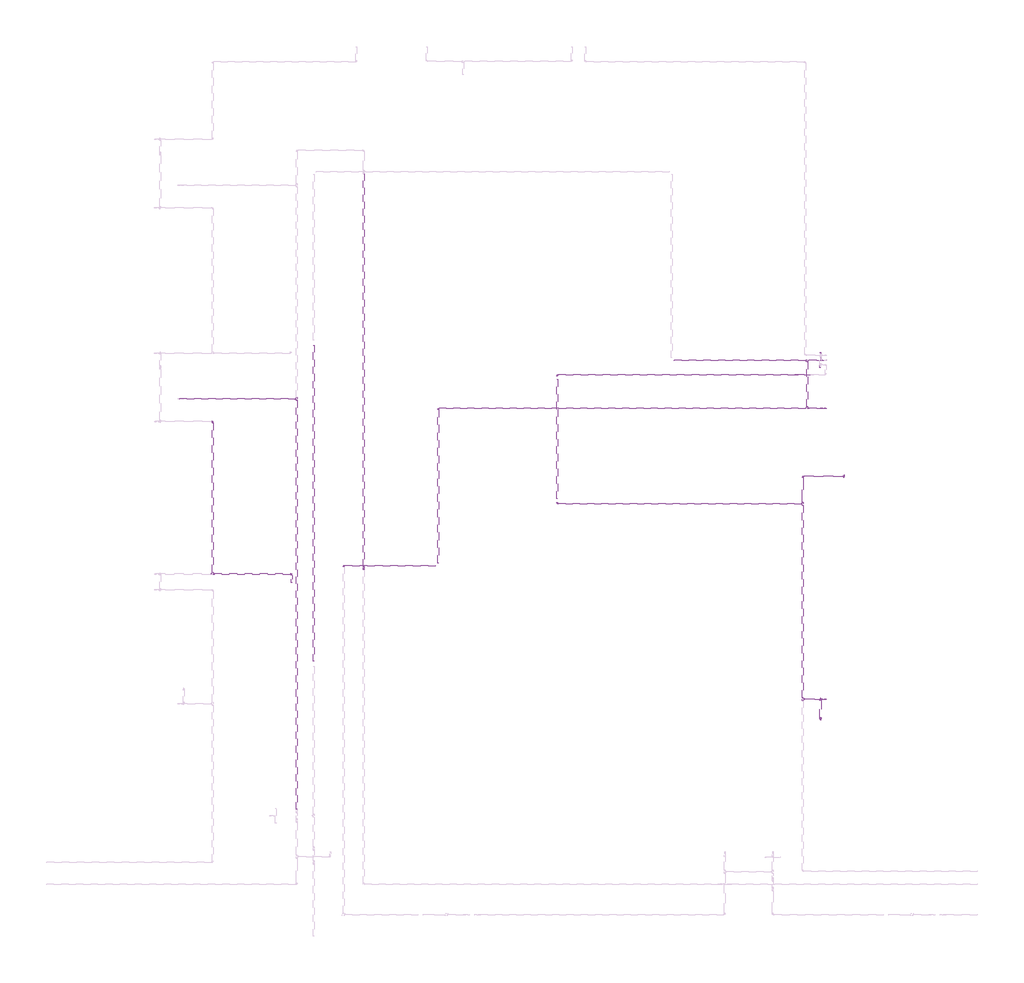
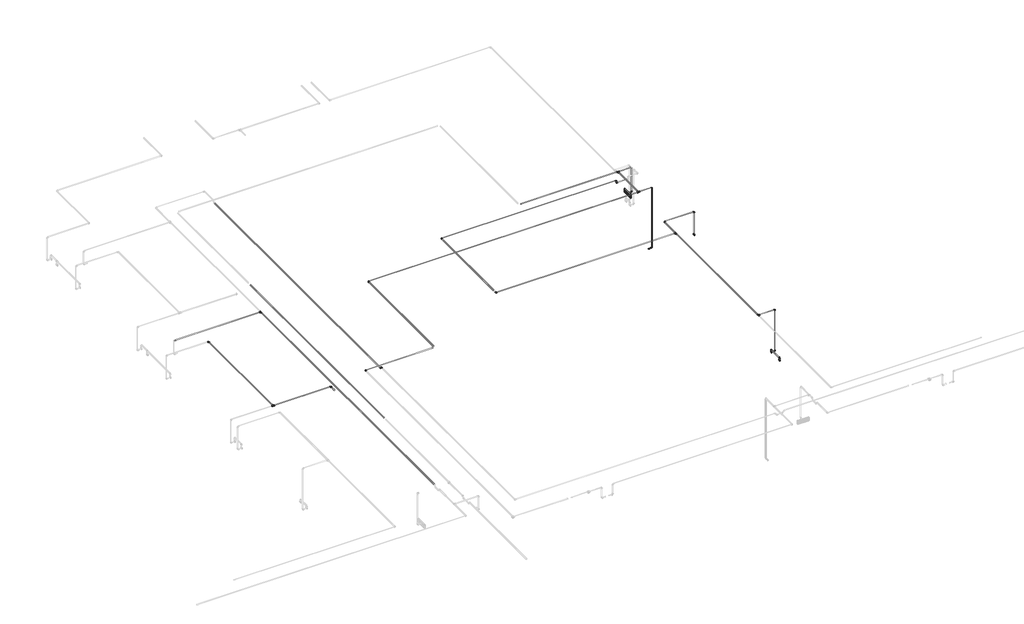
# One storey, part 27 of 40: 36 cable carrier segments, 25 cable carrier fittings, 3 electric appliances, 1 alarm.
"""IFC4 building model written with IfcOpenShell, lengths in millimetres."""

from ifc_helpers import new_model, si_unit, point, frame, frame_2d, origin, place, context, project, spatial, circle_curve, trimmed, segment, composite_curve, outline, extrude, transform, mapped, element, save
from components import alarm_4b7e8fd8, cable_carrier_fitting_69f1a801, cable_carrier_fitting_8122f9af, cable_carrier_fitting_8e51bf8c, cable_carrier_fitting_8fd13dfc, electric_appliance_5961a143

model = new_model("IFC4")

# Units and contexts
model_context = context("Model", 3, world=origin())
ifc_project = project(units=[si_unit("LENGTHUNIT", "METRE", prefix="MILLI")], contexts=[model_context])

# Site, building, storey
site = spatial("IfcSite", under=ifc_project)
building = spatial("IfcBuilding", under=site)
storey = spatial("IfcBuildingStorey", under=building, Name="1 этаж", Elevation=0.0)

# Alarm
placement = place(None, origin())
alarm_shape = alarm_4b7e8fd8(model_context)
element("IfcAlarm", 1, ObjectType="RBZ_Оповещатель_Световой_Рубеж_ОПОП1-R3(грань) : ОПОП 1-R3 \"Выход\"", at=placement, inside=storey, context=model_context, shape_type="MappedRepresentation", body=[
    mapped(alarm_shape, transform((-3772.3240021, 15927.1370105, 2500.0), x_axis=(0.0, -1.0, 0.0), y_axis=(0.0, 0.0, 1.0), z_axis=(-1.0, 0.0, 0.0))),
])

# Cable carrier fittings
cable_carrier_fitting_shape = cable_carrier_fitting_69f1a801(model_context)
element("IfcCableCarrierFitting", 2, ObjectType="ADSK_Поворот_Минимальный размер : Неспецифицируемый", at=placement, inside=storey, context=model_context, shape_type="MappedRepresentation", body=[
    mapped(cable_carrier_fitting_shape, transform((-13072.3240021, 11924.6370105, 3189.25), x_axis=(-0.9999999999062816, 0.0, 1.3690754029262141e-05), y_axis=(0.0, -1.0, 0.0), z_axis=(1.3690754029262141e-05, 0.0, 0.9999999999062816))),
])
element("IfcCableCarrierFitting", 3, ObjectType="ADSK_Поворот_Минимальный размер : Неспецифицируемый", at=placement, inside=storey, context=model_context, shape_type="MappedRepresentation", body=[
    mapped(cable_carrier_fitting_shape, transform((-11227.323998, 14987.1370019, 3189.2386056), x_axis=(-0.9999999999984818, 0.0, -1.7425329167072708e-06), y_axis=(6.374701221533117e-12, -0.9999999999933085, -3.658296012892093e-06), z_axis=(-1.7425329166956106e-06, -3.658296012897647e-06, 0.9999999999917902))),
])
element("IfcCableCarrierFitting", 4, ObjectType="ADSK_Поворот_Минимальный размер : Неспецифицируемый", at=placement, inside=storey, context=model_context, shape_type="MappedRepresentation", body=[
    mapped(cable_carrier_fitting_shape, transform((-3675.1241965, 14987.1370105, 1500.0), x_axis=(1.0, 0.0, 0.0), y_axis=(0.0, 0.0, 1.0), z_axis=(0.0, -1.0, 0.0))),
])
element("IfcCableCarrierFitting", 5, ObjectType="ADSK_Поворот_Минимальный размер : Неспецифицируемый", at=placement, inside=storey, context=model_context, shape_type="MappedRepresentation", body=[
    mapped(cable_carrier_fitting_shape, transform((-3675.1241965, 15927.1370105, 2500.0), x_axis=(1.0, 0.0, 0.0), y_axis=(0.0, 0.0, 1.0), z_axis=(0.0, -1.0, 0.0))),
])
element("IfcCableCarrierFitting", 6, ObjectType="ADSK_Поворот_Минимальный размер : Неспецифицируемый", at=placement, inside=storey, context=model_context, shape_type="MappedRepresentation", body=[
    mapped(cable_carrier_fitting_shape, transform((-14084.8240021, 11759.6370105, 3187.0), x_axis=(0.0, 1.0, 0.0), y_axis=(-1.0, 0.0, 0.0), z_axis=(0.0, 0.0, 1.0))),
])
element("IfcCableCarrierFitting", 7, ObjectType="ADSK_Поворот_Минимальный размер : Неспецифицируемый", at=placement, inside=storey, context=model_context, shape_type="MappedRepresentation", body=[
    mapped(cable_carrier_fitting_shape, transform((-8903.8142374, 15646.0044154, 3187.0), x_axis=(-1.0, 0.0, 0.0), y_axis=(0.0, -1.0, 0.0), z_axis=(0.0, 0.0, 1.0))),
])
element("IfcCableCarrierFitting", 8, ObjectType="ADSK_Поворот_Минимальный размер : Неспецифицируемый", at=placement, inside=storey, context=model_context, shape_type="MappedRepresentation", body=[
    mapped(cable_carrier_fitting_shape, transform((-3318.3240021, 13664.6370105, 3187.0), x_axis=(0.0, 0.0, 1.0), y_axis=(-1.0, 0.0, 0.0), z_axis=(0.0, -1.0, 0.0))),
])
element("IfcCableCarrierFitting", 9, ObjectType="ADSK_Поворот_Минимальный размер : Неспецифицируемый", at=placement, inside=storey, context=model_context, shape_type="MappedRepresentation", body=[
    mapped(cable_carrier_fitting_shape, transform((-4118.3240021, 13664.6370105, 3187.0), x_axis=(-1.0, 0.0, 0.0), y_axis=(0.0, -1.0, 0.0), z_axis=(0.0, 0.0, 1.0))),
])
element("IfcCableCarrierFitting", 10, ObjectType="ADSK_Поворот_Минимальный размер : Неспецифицируемый", at=placement, inside=storey, context=model_context, shape_type="MappedRepresentation", body=[
    mapped(cable_carrier_fitting_shape, transform((-4243.8142374, 15646.0044154, 3187.0), x_axis=(1.0, 0.0, 0.0), y_axis=(0.0, 0.0, -1.0), z_axis=(0.0, 1.0, 0.0))),
])
element("IfcCableCarrierFitting", 11, ObjectType="ADSK_Поворот_Минимальный размер : Неспецифицируемый", at=placement, inside=storey, context=model_context, shape_type="MappedRepresentation", body=[
    mapped(cable_carrier_fitting_shape, transform((-4243.8142374, 15646.0044154, 3120.0), x_axis=(0.0, 0.0, -1.0), y_axis=(1.0, 0.0, 0.0), z_axis=(0.0, -1.0, 0.0))),
])
element("IfcCableCarrierFitting", 12, ObjectType="ADSK_Поворот_Минимальный размер : Неспецифицируемый", at=placement, inside=storey, context=model_context, shape_type="MappedRepresentation", body=[
    mapped(cable_carrier_fitting_shape, transform((-15622.3240021, 14732.1370105, 3187.0), x_axis=(0.0, 1.0, 0.0), y_axis=(-1.0, 0.0, 0.0), z_axis=(0.0, 0.0, 1.0))),
])
element("IfcCableCarrierFitting", 13, ObjectType="ADSK_Поворот_Минимальный размер : Неспецифицируемый", at=placement, inside=storey, context=model_context, shape_type="MappedRepresentation", body=[
    mapped(cable_carrier_fitting_shape, transform((-8903.8142374, 13125.6490165, 3187.0), x_axis=(0.0, -1.0, 0.0), y_axis=(1.0, 0.0, 0.0), z_axis=(0.0, 0.0, 1.0))),
])
element("IfcCableCarrierFitting", 14, ObjectType="ADSK_Поворот_Минимальный размер : Неспецифицируемый", at=placement, inside=storey, context=model_context, shape_type="MappedRepresentation", body=[
    mapped(cable_carrier_fitting_shape, transform((-3775.3240021, 8933.8719238, 2100.0), x_axis=(0.0, 0.0, 1.0), y_axis=(0.0, 1.0, 0.0), z_axis=(-1.0, 0.0, 0.0))),
])
element("IfcCableCarrierFitting", 15, ObjectType="ADSK_Поворот_Минимальный размер : Неспецифицируемый", at=placement, inside=storey, context=model_context, shape_type="MappedRepresentation", body=[
    mapped(cable_carrier_fitting_shape, transform((-3775.3240021, 9321.9874432, 2100.0), x_axis=(0.0, 0.0, 1.0), y_axis=(0.0, -1.0, 0.0), z_axis=(1.0, 0.0, 0.0))),
])
element("IfcCableCarrierFitting", 16, ObjectType="ADSK_Поворот_Минимальный размер : Неспецифицируемый", at=placement, inside=storey, context=model_context, shape_type="MappedRepresentation", body=[
    mapped(cable_carrier_fitting_shape, transform((-3675.1241965, 9321.9874432, 2028.0911237), x_axis=(1.0, 0.0, 0.0), y_axis=(0.0, 0.0, 1.0), z_axis=(0.0, -1.0, 0.0))),
])
element("IfcCableCarrierFitting", 17, ObjectType="ADSK_Поворот_Минимальный размер : Неспецифицируемый", at=placement, inside=storey, context=model_context, shape_type="MappedRepresentation", body=[
    mapped(cable_carrier_fitting_shape, transform((-3675.1241965, 9321.9874432, 3187.0), x_axis=(0.0, 0.0, 1.0), y_axis=(-1.0, 0.0, 0.0), z_axis=(0.0, -1.0, 0.0))),
])
cable_carrier_fitting_2_shape = cable_carrier_fitting_8122f9af(model_context)
element("IfcCableCarrierFitting", 18, ObjectType="ADSK_Поворот_Минимальный размер : Неспецифицируемый", at=placement, inside=storey, context=model_context, shape_type="MappedRepresentation", body=[
    mapped(cable_carrier_fitting_2_shape, transform((-12682.3240021, 11904.6370105, 3130.0), x_axis=(0.0, -1.0, 0.0), y_axis=(0.0, 0.0, 1.0), z_axis=(-1.0, 0.0, 0.0))),
])
element("IfcCableCarrierFitting", 19, ObjectType="ADSK_Поворот_Минимальный размер : Неспецифицируемый", at=placement, inside=storey, context=model_context, shape_type="MappedRepresentation", body=[
    mapped(cable_carrier_fitting_2_shape, transform((-12682.3240021, 11854.6370105, 3180.0), x_axis=(0.0, -0.7071067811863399, 0.7071067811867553), y_axis=(0.0, -0.7071067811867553, -0.7071067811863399), z_axis=(1.0, 0.0, 0.0))),
])
cable_carrier_fitting_3_shape = cable_carrier_fitting_8e51bf8c(model_context)
element("IfcCableCarrierFitting", 20, ObjectType="ADSK_Поворот_Минимальный размер : Неспецифицируемый", at=placement, inside=storey, context=model_context, shape_type="MappedRepresentation", body=[
    mapped(cable_carrier_fitting_3_shape, transform((-3675.1241965, 14987.1370105, 3189.3066771), x_axis=(0.0, 0.0, 1.0), y_axis=(-0.9999999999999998, -2.757882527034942e-08, 0.0), z_axis=(2.757882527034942e-08, -0.9999999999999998, 0.0))),
])
cable_carrier_fitting_4_shape = cable_carrier_fitting_8fd13dfc(model_context)
element("IfcCableCarrierFitting", 21, ObjectType="ADSK_Тройник : ПВХ", at=placement, inside=storey, context=model_context, shape_type="MappedRepresentation", body=[
    mapped(cable_carrier_fitting_4_shape, transform((-4037.5567771, 14987.1370019, 3189.2011341), x_axis=(-0.9999999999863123, 0.0, 5.2321556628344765e-06), y_axis=(0.0, -1.0, 0.0), z_axis=(5.2321556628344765e-06, 0.0, 0.9999999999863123))),
])
element("IfcCableCarrierFitting", 22, ObjectType="ADSK_Тройник : ПВХ", at=placement, inside=storey, context=model_context, shape_type="MappedRepresentation", body=[
    mapped(cable_carrier_fitting_4_shape, transform((-4037.5567771, 15927.1370105, 3189.2125212), x_axis=(1.0, 0.0, 0.0), y_axis=(0.0, 0.9999999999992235, -1.2462246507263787e-06), z_axis=(0.0, 1.2462246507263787e-06, 0.9999999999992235))),
])
element("IfcCableCarrierFitting", 23, ObjectType="ADSK_Тройник : ПВХ", at=placement, inside=storey, context=model_context, shape_type="MappedRepresentation", body=[
    mapped(cable_carrier_fitting_4_shape, transform((-4118.3240021, 13125.6490165, 3187.0), x_axis=(0.0, -1.0, 0.0), y_axis=(1.0, 0.0, 0.0), z_axis=(0.0, 0.0, 1.0))),
])
element("IfcCableCarrierFitting", 24, ObjectType="ADSK_Тройник : ПВХ", at=placement, inside=storey, context=model_context, shape_type="MappedRepresentation", body=[
    mapped(cable_carrier_fitting_4_shape, transform((-15622.3240021, 11759.6370105, 3187.0), x_axis=(-1.0, 0.0, 0.0), y_axis=(0.0, -1.0, 0.0), z_axis=(0.0, 0.0, 1.0))),
])
element("IfcCableCarrierFitting", 25, ObjectType="ADSK_Тройник : ПВХ", at=placement, inside=storey, context=model_context, shape_type="MappedRepresentation", body=[
    mapped(cable_carrier_fitting_4_shape, transform((-13982.3240021, 15172.1370105, 3180.0), x_axis=(0.0, -1.0, 0.0), y_axis=(1.0, 0.0, 0.0), z_axis=(0.0, 0.0, 1.0))),
])
element("IfcCableCarrierFitting", 26, ObjectType="ADSK_Тройник : ПВХ", at=placement, inside=storey, context=model_context, shape_type="MappedRepresentation", body=[
    mapped(cable_carrier_fitting_4_shape, transform((-4118.3240021, 9321.9874432, 3187.0), x_axis=(0.0, 1.0, 0.0), y_axis=(-1.0, 0.0, 0.0), z_axis=(0.0, 0.0, 1.0))),
])

# Cable carrier segments
element("IfcCableCarrierSegment", 27, ObjectType="Гофрированная труба", at=placement, inside=storey, context=model_context, shape_type="SweptSolid", body=[
    extrude(outline(composite_curve([segment(trimmed(circle_curve(frame_2d((11924.6370105, 3189.2497125)), 10.0), [point((11914.6370105, 3189.2497125))], [point((11924.6370105, 3199.2497125))], False, "CARTESIAN"), True, "CONTINUOUS"), segment(trimmed(circle_curve(frame_2d((11924.6370105, 3189.2497125)), 10.0), [point((11924.6370105, 3199.2497125))], [point((11934.6370105, 3189.2497125))], False, "CARTESIAN"), True, "CONTINUOUS"), segment(trimmed(circle_curve(frame_2d((11924.6370105, 3189.2497125)), 10.0), [point((11934.6370105, 3189.2497125))], [point((11924.6370105, 3179.2497125))], False, "CARTESIAN"), True, "CONTINUOUS"), segment(trimmed(circle_curve(frame_2d((11924.6370105, 3189.2497125)), 10.0), [point((11924.6370105, 3179.2497125))], [point((11914.6370105, 3189.2497125))], False, "CARTESIAN"), True, "CONTINUOUS")], self_intersect=False)), frame((-13051.3240021, 0.0, 0.0), z_axis=(1.0, 0.0, 0.0), x_axis=(0.0, 1.0, 0.0)), (0.0, 0.0, 1.0), 1777.5),
])
element("IfcCableCarrierSegment", 28, ObjectType="Гофрированная труба", at=placement, inside=storey, context=model_context, shape_type="SweptSolid", body=[
    extrude(outline(composite_curve([segment(trimmed(circle_curve(frame_2d((3189.2385288, -11227.323998)), 10.0), [point((3189.2385113, -11237.323998))], [point((3179.2385288, -11227.3239806))], False, "CARTESIAN"), True, "CONTINUOUS"), segment(trimmed(circle_curve(frame_2d((3189.2385288, -11227.323998)), 10.0), [point((3179.2385288, -11227.3239806))], [point((3189.2385462, -11217.323998))], False, "CARTESIAN"), True, "CONTINUOUS"), segment(trimmed(circle_curve(frame_2d((3189.2385288, -11227.323998)), 10.0), [point((3189.2385462, -11217.323998))], [point((3199.2385288, -11227.3240154))], False, "CARTESIAN"), True, "CONTINUOUS"), segment(trimmed(circle_curve(frame_2d((3189.2385288, -11227.323998)), 10.0), [point((3199.2385288, -11227.3240154))], [point((3189.2385113, -11237.323998))], False, "CARTESIAN"), True, "CONTINUOUS")], self_intersect=False)), frame((0.0, 11971.1370105, 0.0), z_axis=(0.0, 1.0, 0.0), x_axis=(0.0, 0.0, 1.0)), (0.0, 0.0, 1.0), 2994.9999914),
])
element("IfcCableCarrierSegment", 29, ObjectType="Гофрированная труба", at=placement, inside=storey, context=model_context, shape_type="SweptSolid", body=[
    extrude(outline(composite_curve([segment(trimmed(circle_curve(frame_2d((3189.2125212, -13652.3240113)), 10.0), [point((3189.2125212, -13642.3240113))], [point((3199.2125212, -13652.3240113))], False, "CARTESIAN"), True, "CONTINUOUS"), segment(trimmed(circle_curve(frame_2d((3189.2125212, -13652.3240113)), 10.0), [point((3199.2125212, -13652.3240113))], [point((3189.2125212, -13662.3240113))], False, "CARTESIAN"), True, "CONTINUOUS"), segment(trimmed(circle_curve(frame_2d((3189.2125212, -13652.3240113)), 10.0), [point((3189.2125212, -13662.3240113))], [point((3179.2125212, -13652.3240113))], False, "CARTESIAN"), True, "CONTINUOUS"), segment(trimmed(circle_curve(frame_2d((3189.2125212, -13652.3240113)), 10.0), [point((3179.2125212, -13652.3240113))], [point((3189.2125212, -13642.3240113))], False, "CARTESIAN"), True, "CONTINUOUS")], self_intersect=False)), frame((0.0, 10056.1370097, 0.0), z_axis=(0.0, 1.0, 0.0), x_axis=(0.0, 0.0, 1.0)), (0.0, 0.0, 1.0), 6162.0),
])
element("IfcCableCarrierSegment", 30, ObjectType="Гофрированная труба", at=placement, inside=storey, context=model_context, shape_type="SweptSolid", body=[
    extrude(outline(composite_curve([segment(trimmed(circle_curve(frame_2d((0.0, 10.0)), 10.0), [point((0.0, 0.0))], [point((-10.0, 10.0))], False, "CARTESIAN"), True, "CONTINUOUS"), segment(trimmed(circle_curve(frame_2d((0.0, 10.0)), 10.0), [point((-10.0, 10.0))], [point((0.0, 20.0))], False, "CARTESIAN"), True, "CONTINUOUS"), segment(trimmed(circle_curve(frame_2d((0.0, 10.0)), 10.0), [point((0.0, 20.0))], [point((10.0, 10.0))], False, "CARTESIAN"), True, "CONTINUOUS"), segment(trimmed(circle_curve(frame_2d((0.0, 10.0)), 10.0), [point((10.0, 10.0))], [point((0.0, 0.0))], False, "CARTESIAN"), True, "CONTINUOUS")], self_intersect=False)), frame((-4047.5567771, 15897.1370105, 3189.2125586), z_axis=(0.0, -0.9999999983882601, 5.6775696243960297e-05), x_axis=(0.0, -5.6775696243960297e-05, -0.9999999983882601)), (0.0, 0.0, 1.0), 880.0000121),
])
element("IfcCableCarrierSegment", 31, ObjectType="Гофрированная труба", at=placement, inside=storey, context=model_context, shape_type="SweptSolid", body=[
    extrude(outline(composite_curve([segment(trimmed(circle_curve(frame_2d((0.0, -10.0)), 10.0), [point((-10.0, -10.0))], [point((0.0, 0.0))], False, "CARTESIAN"), True, "CONTINUOUS"), segment(trimmed(circle_curve(frame_2d((0.0, -10.0)), 10.0), [point((0.0, 0.0))], [point((10.0, -10.0))], False, "CARTESIAN"), True, "CONTINUOUS"), segment(trimmed(circle_curve(frame_2d((0.0, -10.0)), 10.0), [point((10.0, -10.0))], [point((0.0, -20.0))], False, "CARTESIAN"), True, "CONTINUOUS"), segment(trimmed(circle_curve(frame_2d((0.0, -10.0)), 10.0), [point((0.0, -20.0))], [point((-10.0, -10.0))], False, "CARTESIAN"), True, "CONTINUOUS")], self_intersect=False)), frame((-4067.5568294, 14987.1370019, 3179.201291), z_axis=(-0.9999999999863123, 0.0, 5.232155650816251e-06), x_axis=(0.0, 1.0, 0.0)), (0.0, 0.0, 1.0), 7138.767221),
])
element("IfcCableCarrierSegment", 32, ObjectType="Гофрированная труба", at=placement, inside=storey, context=model_context, shape_type="SweptSolid", body=[
    extrude(outline(composite_curve([segment(trimmed(circle_curve(frame_2d((15927.1370105, 3189.2125212)), 10.0), [point((15917.1370105, 3189.2125212))], [point((15927.1370105, 3199.2125212))], False, "CARTESIAN"), True, "CONTINUOUS"), segment(trimmed(circle_curve(frame_2d((15927.1370105, 3189.2125212)), 10.0), [point((15927.1370105, 3199.2125212))], [point((15937.1370105, 3189.2125212))], False, "CARTESIAN"), True, "CONTINUOUS"), segment(trimmed(circle_curve(frame_2d((15927.1370105, 3189.2125212)), 10.0), [point((15937.1370105, 3189.2125212))], [point((15927.1370105, 3179.2125212))], False, "CARTESIAN"), True, "CONTINUOUS"), segment(trimmed(circle_curve(frame_2d((15927.1370105, 3189.2125212)), 10.0), [point((15927.1370105, 3179.2125212))], [point((15917.1370105, 3189.2125212))], False, "CARTESIAN"), True, "CONTINUOUS")], self_intersect=False)), frame((-6625.8240021, 0.0, 0.0), z_axis=(1.0, 0.0, 0.0), x_axis=(0.0, 1.0, 0.0)), (0.0, 0.0, 1.0), 2558.267225),
])
element("IfcCableCarrierSegment", 33, ObjectType="Гофрированная труба", at=placement, inside=storey, context=model_context, shape_type="SweptSolid", body=[
    extrude(outline(composite_curve([segment(trimmed(circle_curve(frame_2d((11759.6370105, 3187.0)), 10.0), [point((11749.6370105, 3187.0))], [point((11759.6370105, 3197.0))], False, "CARTESIAN"), True, "CONTINUOUS"), segment(trimmed(circle_curve(frame_2d((11759.6370105, 3187.0)), 10.0), [point((11759.6370105, 3197.0))], [point((11769.6370105, 3187.0))], False, "CARTESIAN"), True, "CONTINUOUS"), segment(trimmed(circle_curve(frame_2d((11759.6370105, 3187.0)), 10.0), [point((11769.6370105, 3187.0))], [point((11759.6370105, 3177.0))], False, "CARTESIAN"), True, "CONTINUOUS"), segment(trimmed(circle_curve(frame_2d((11759.6370105, 3187.0)), 10.0), [point((11759.6370105, 3177.0))], [point((11749.6370105, 3187.0))], False, "CARTESIAN"), True, "CONTINUOUS")], self_intersect=False)), frame((-15592.3240021, 0.0, 0.0), z_axis=(1.0, 0.0, 0.0), x_axis=(0.0, 1.0, 0.0)), (0.0, 0.0, 1.0), 1486.5),
])
element("IfcCableCarrierSegment", 34, ObjectType="Гофрированная труба", at=placement, inside=storey, context=model_context, shape_type="SweptSolid", body=[
    extrude(outline(composite_curve([segment(trimmed(circle_curve(frame_2d((3187.0, -15622.3240021)), 10.0), [point((3187.0, -15632.3240021))], [point((3177.0, -15622.3240021))], False, "CARTESIAN"), True, "CONTINUOUS"), segment(trimmed(circle_curve(frame_2d((3187.0, -15622.3240021)), 10.0), [point((3177.0, -15622.3240021))], [point((3187.0, -15612.3240021))], False, "CARTESIAN"), True, "CONTINUOUS"), segment(trimmed(circle_curve(frame_2d((3187.0, -15622.3240021)), 10.0), [point((3187.0, -15612.3240021))], [point((3197.0, -15622.3240021))], False, "CARTESIAN"), True, "CONTINUOUS"), segment(trimmed(circle_curve(frame_2d((3187.0, -15622.3240021)), 10.0), [point((3197.0, -15622.3240021))], [point((3187.0, -15632.3240021))], False, "CARTESIAN"), True, "CONTINUOUS")], self_intersect=False)), frame((0.0, 11789.6370105, 0.0), z_axis=(0.0, 1.0, 0.0), x_axis=(0.0, 0.0, 1.0)), (0.0, 0.0, 1.0), 2921.5),
])
element("IfcCableCarrierSegment", 35, ObjectType="Гофрированная труба", at=placement, inside=storey, context=model_context, shape_type="SweptSolid", body=[
    extrude(outline(composite_curve([segment(trimmed(circle_curve(frame_2d((0.0, 10.0)), 10.0), [point((-10.0, 10.0))], [point((0.0, 20.0))], False, "CARTESIAN"), True, "CONTINUOUS"), segment(trimmed(circle_curve(frame_2d((0.0, 10.0)), 10.0), [point((0.0, 20.0))], [point((10.0, 10.0))], False, "CARTESIAN"), True, "CONTINUOUS"), segment(trimmed(circle_curve(frame_2d((0.0, 10.0)), 10.0), [point((10.0, 10.0))], [point((0.0, 0.0))], False, "CARTESIAN"), True, "CONTINUOUS"), segment(trimmed(circle_curve(frame_2d((0.0, 10.0)), 10.0), [point((0.0, 0.0))], [point((-10.0, 10.0))], False, "CARTESIAN"), True, "CONTINUOUS")], self_intersect=False)), frame((-4007.5535975, 14987.1370019, 3179.2009776), z_axis=(0.9999999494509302, 2.571914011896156e-08, 0.0003179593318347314), x_axis=(-2.5719138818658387e-08, 0.9999999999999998, -8.178346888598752e-12)), (0.0, 0.0, 1.0), 311.4262372),
])
element("IfcCableCarrierSegment", 36, ObjectType="Гофрированная труба", at=placement, inside=storey, context=model_context, shape_type="SweptSolid", body=[
    extrude(outline(composite_curve([segment(trimmed(circle_curve(frame_2d((14987.1370105, 1500.0)), 10.0), [point((14977.1370105, 1500.0))], [point((14987.1370105, 1510.0))], False, "CARTESIAN"), True, "CONTINUOUS"), segment(trimmed(circle_curve(frame_2d((14987.1370105, 1500.0)), 10.0), [point((14987.1370105, 1510.0))], [point((14997.1370105, 1500.0))], False, "CARTESIAN"), True, "CONTINUOUS"), segment(trimmed(circle_curve(frame_2d((14987.1370105, 1500.0)), 10.0), [point((14997.1370105, 1500.0))], [point((14987.1370105, 1490.0))], False, "CARTESIAN"), True, "CONTINUOUS"), segment(trimmed(circle_curve(frame_2d((14987.1370105, 1500.0)), 10.0), [point((14987.1370105, 1490.0))], [point((14977.1370105, 1500.0))], False, "CARTESIAN"), True, "CONTINUOUS")], self_intersect=False)), frame((-3772.3240021, 0.0, 0.0), z_axis=(1.0, 0.0, 0.0), x_axis=(0.0, 1.0, 0.0)), (0.0, 0.0, 1.0), 76.1998056),
])
element("IfcCableCarrierSegment", 37, ObjectType="Гофрированная труба", at=placement, inside=storey, context=model_context, shape_type="SweptSolid", body=[
    extrude(outline(composite_curve([segment(trimmed(circle_curve(frame_2d((-3675.1241965, 14987.1370105)), 10.0), [point((-3685.1241965, 14987.1370105))], [point((-3675.1241965, 14997.1370105))], False, "CARTESIAN"), True, "CONTINUOUS"), segment(trimmed(circle_curve(frame_2d((-3675.1241965, 14987.1370105)), 10.0), [point((-3675.1241965, 14997.1370105))], [point((-3665.1241965, 14987.1370105))], False, "CARTESIAN"), True, "CONTINUOUS"), segment(trimmed(circle_curve(frame_2d((-3675.1241965, 14987.1370105)), 10.0), [point((-3665.1241965, 14987.1370105))], [point((-3675.1241965, 14977.1370105))], False, "CARTESIAN"), True, "CONTINUOUS"), segment(trimmed(circle_curve(frame_2d((-3675.1241965, 14987.1370105)), 10.0), [point((-3675.1241965, 14977.1370105))], [point((-3685.1241965, 14987.1370105))], False, "CARTESIAN"), True, "CONTINUOUS")], self_intersect=False)), frame((0.0, 0.0, 1521.0), z_axis=(0.0, 0.0, 1.0), x_axis=(1.0, 0.0, 0.0)), (0.0, 0.0, 1.0), 1647.3003169),
])
element("IfcCableCarrierSegment", 38, ObjectType="Гофрированная труба", at=placement, inside=storey, context=model_context, shape_type="SweptSolid", body=[
    extrude(outline(composite_curve([segment(trimmed(circle_curve(frame_2d((0.0, 10.0)), 10.0), [point((-10.0, 10.0))], [point((0.0, 20.0000001))], False, "CARTESIAN"), True, "CONTINUOUS"), segment(trimmed(circle_curve(frame_2d((0.0, 10.0)), 10.0), [point((0.0, 20.0000001))], [point((10.0, 10.0))], False, "CARTESIAN"), True, "CONTINUOUS"), segment(trimmed(circle_curve(frame_2d((0.0, 10.0)), 10.0), [point((10.0, 10.0))], [point((0.0, 0.0))], False, "CARTESIAN"), True, "CONTINUOUS"), segment(trimmed(circle_curve(frame_2d((0.0, 10.0)), 10.0), [point((0.0, 0.0))], [point((-10.0, 10.0))], False, "CARTESIAN"), True, "CONTINUOUS")], self_intersect=False)), frame((-4007.5551716, 15927.1370105, 3179.2125213), z_axis=(0.9999999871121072, 0.0, 0.00016054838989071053), x_axis=(0.0, 1.0, 0.0)), (0.0, 0.0, 1.0), 311.4293736),
])
element("IfcCableCarrierSegment", 39, ObjectType="Гофрированная труба", at=placement, inside=storey, context=model_context, shape_type="SweptSolid", body=[
    extrude(outline(composite_curve([segment(trimmed(circle_curve(frame_2d((15927.1370105, 2500.0)), 10.0), [point((15917.1370105, 2500.0))], [point((15927.1370105, 2510.0))], False, "CARTESIAN"), True, "CONTINUOUS"), segment(trimmed(circle_curve(frame_2d((15927.1370105, 2500.0)), 10.0), [point((15927.1370105, 2510.0))], [point((15937.1370105, 2500.0))], False, "CARTESIAN"), True, "CONTINUOUS"), segment(trimmed(circle_curve(frame_2d((15927.1370105, 2500.0)), 10.0), [point((15937.1370105, 2500.0))], [point((15927.1370105, 2490.0))], False, "CARTESIAN"), True, "CONTINUOUS"), segment(trimmed(circle_curve(frame_2d((15927.1370105, 2500.0)), 10.0), [point((15927.1370105, 2490.0))], [point((15917.1370105, 2500.0))], False, "CARTESIAN"), True, "CONTINUOUS")], self_intersect=False)), frame((-3772.3240021, 0.0, 0.0), z_axis=(1.0, 0.0, 0.0), x_axis=(0.0, 1.0, 0.0)), (0.0, 0.0, 1.0), 76.1998056),
])
element("IfcCableCarrierSegment", 40, ObjectType="Гофрированная труба", at=placement, inside=storey, context=model_context, shape_type="SweptSolid", body=[
    extrude(outline(composite_curve([segment(trimmed(circle_curve(frame_2d((-3675.1241965, 15927.1370105)), 10.0), [point((-3685.1241965, 15927.1370105))], [point((-3675.1241965, 15937.1370105))], False, "CARTESIAN"), True, "CONTINUOUS"), segment(trimmed(circle_curve(frame_2d((-3675.1241965, 15927.1370105)), 10.0), [point((-3675.1241965, 15937.1370105))], [point((-3665.1241965, 15927.1370105))], False, "CARTESIAN"), True, "CONTINUOUS"), segment(trimmed(circle_curve(frame_2d((-3675.1241965, 15927.1370105)), 10.0), [point((-3665.1241965, 15927.1370105))], [point((-3675.1241965, 15917.1370105))], False, "CARTESIAN"), True, "CONTINUOUS"), segment(trimmed(circle_curve(frame_2d((-3675.1241965, 15927.1370105)), 10.0), [point((-3675.1241965, 15917.1370105))], [point((-3685.1241965, 15927.1370105))], False, "CARTESIAN"), True, "CONTINUOUS")], self_intersect=False)), frame((0.0, 0.0, 2521.0), z_axis=(0.0, 0.0, 1.0), x_axis=(1.0, 0.0, 0.0)), (0.0, 0.0, 1.0), 647.3001603),
])
element("IfcCableCarrierSegment", 41, ObjectType="Гофрированная труба", at=placement, inside=storey, context=model_context, shape_type="SweptSolid", body=[
    extrude(outline(composite_curve([segment(trimmed(circle_curve(frame_2d((3187.0, -14084.8240021)), 10.0), [point((3187.0, -14074.8240021))], [point((3197.0, -14084.8240021))], False, "CARTESIAN"), True, "CONTINUOUS"), segment(trimmed(circle_curve(frame_2d((3187.0, -14084.8240021)), 10.0), [point((3197.0, -14084.8240021))], [point((3187.0, -14094.8240021))], False, "CARTESIAN"), True, "CONTINUOUS"), segment(trimmed(circle_curve(frame_2d((3187.0, -14084.8240021)), 10.0), [point((3187.0, -14094.8240021))], [point((3177.0, -14084.8240021))], False, "CARTESIAN"), True, "CONTINUOUS"), segment(trimmed(circle_curve(frame_2d((3187.0, -14084.8240021)), 10.0), [point((3177.0, -14084.8240021))], [point((3187.0, -14074.8240021))], False, "CARTESIAN"), True, "CONTINUOUS")], self_intersect=False)), frame((0.0, 11584.5987933, 0.0), z_axis=(0.0, 1.0, 0.0), x_axis=(0.0, 0.0, 1.0)), (0.0, 0.0, 1.0), 154.0382172),
])
element("IfcCableCarrierSegment", 42, ObjectType="Гофрированная труба", at=placement, inside=storey, context=model_context, shape_type="SweptSolid", body=[
    extrude(outline(composite_curve([segment(trimmed(circle_curve(frame_2d((13125.6490165, 3187.0)), 10.0), [point((13115.6490165, 3187.0))], [point((13125.6490165, 3197.0))], False, "CARTESIAN"), True, "CONTINUOUS"), segment(trimmed(circle_curve(frame_2d((13125.6490165, 3187.0)), 10.0), [point((13125.6490165, 3197.0))], [point((13135.6490165, 3187.0))], False, "CARTESIAN"), True, "CONTINUOUS"), segment(trimmed(circle_curve(frame_2d((13125.6490165, 3187.0)), 10.0), [point((13135.6490165, 3187.0))], [point((13125.6490165, 3177.0))], False, "CARTESIAN"), True, "CONTINUOUS"), segment(trimmed(circle_curve(frame_2d((13125.6490165, 3187.0)), 10.0), [point((13125.6490165, 3177.0))], [point((13115.6490165, 3187.0))], False, "CARTESIAN"), True, "CONTINUOUS")], self_intersect=False)), frame((-8882.8142374, 0.0, 0.0), z_axis=(1.0, 0.0, 0.0), x_axis=(0.0, 1.0, 0.0)), (0.0, 0.0, 1.0), 4734.4902353),
])
element("IfcCableCarrierSegment", 43, ObjectType="Гофрированная труба", at=placement, inside=storey, context=model_context, shape_type="SweptSolid", body=[
    extrude(outline(composite_curve([segment(trimmed(circle_curve(frame_2d((0.0, 10.0)), 10.0), [point((0.0, 20.0))], [point((10.0, 10.0))], False, "CARTESIAN"), True, "CONTINUOUS"), segment(trimmed(circle_curve(frame_2d((0.0, 10.0)), 10.0), [point((10.0, 10.0))], [point((0.0, 0.0))], False, "CARTESIAN"), True, "CONTINUOUS"), segment(trimmed(circle_curve(frame_2d((0.0, 10.0)), 10.0), [point((0.0, 0.0))], [point((-10.0, 10.0))], False, "CARTESIAN"), True, "CONTINUOUS"), segment(trimmed(circle_curve(frame_2d((0.0, 10.0)), 10.0), [point((-10.0, 10.0))], [point((0.0, 20.0))], False, "CARTESIAN"), True, "CONTINUOUS")], self_intersect=False)), frame((-8913.8142374, 15618.5044154, 3187.0), z_axis=(-5.306048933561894e-12, 1.0, 0.0), x_axis=(0.0, 0.0, 1.0)), (0.0, 0.0, 1.0), 6.5),
])
element("IfcCableCarrierSegment", 44, ObjectType="Гофрированная труба", at=placement, inside=storey, context=model_context, shape_type="SweptSolid", body=[
    extrude(outline(composite_curve([segment(trimmed(circle_curve(frame_2d((15646.0044154, 3187.0)), 10.0), [point((15636.0044154, 3187.0))], [point((15646.0044154, 3197.0))], False, "CARTESIAN"), True, "CONTINUOUS"), segment(trimmed(circle_curve(frame_2d((15646.0044154, 3187.0)), 10.0), [point((15646.0044154, 3197.0))], [point((15656.0044154, 3187.0))], False, "CARTESIAN"), True, "CONTINUOUS"), segment(trimmed(circle_curve(frame_2d((15646.0044154, 3187.0)), 10.0), [point((15656.0044154, 3187.0))], [point((15646.0044154, 3177.0))], False, "CARTESIAN"), True, "CONTINUOUS"), segment(trimmed(circle_curve(frame_2d((15646.0044154, 3187.0)), 10.0), [point((15646.0044154, 3177.0))], [point((15636.0044154, 3187.0))], False, "CARTESIAN"), True, "CONTINUOUS")], self_intersect=False)), frame((-8882.8142374, 0.0, 0.0), z_axis=(1.0, 0.0, 0.0), x_axis=(0.0, 1.0, 0.0)), (0.0, 0.0, 1.0), 4618.0),
])
element("IfcCableCarrierSegment", 45, ObjectType="Гофрированная труба", at=placement, inside=storey, context=model_context, shape_type="SweptSolid", body=[
    extrude(outline(composite_curve([segment(trimmed(circle_curve(frame_2d((13664.6370105, 3187.0)), 10.0), [point((13674.6370105, 3187.0))], [point((13664.6370105, 3177.0))], False, "CARTESIAN"), True, "CONTINUOUS"), segment(trimmed(circle_curve(frame_2d((13664.6370105, 3187.0)), 10.0), [point((13664.6370105, 3177.0))], [point((13654.6370105, 3187.0))], False, "CARTESIAN"), True, "CONTINUOUS"), segment(trimmed(circle_curve(frame_2d((13664.6370105, 3187.0)), 10.0), [point((13654.6370105, 3187.0))], [point((13664.6370105, 3197.0))], False, "CARTESIAN"), True, "CONTINUOUS"), segment(trimmed(circle_curve(frame_2d((13664.6370105, 3187.0)), 10.0), [point((13664.6370105, 3197.0))], [point((13674.6370105, 3187.0))], False, "CARTESIAN"), True, "CONTINUOUS")], self_intersect=False)), frame((-4097.3240021, 0.0, 0.0), z_axis=(1.0, 0.0, 0.0), x_axis=(0.0, 1.0, 0.0)), (0.0, 0.0, 1.0), 758.0),
])
element("IfcCableCarrierSegment", 46, ObjectType="Гофрированная труба", at=placement, inside=storey, context=model_context, shape_type="SweptSolid", body=[
    extrude(outline(composite_curve([segment(trimmed(circle_curve(frame_2d((-3318.3240021, 13664.6370105)), 10.0), [point((-3328.3240021, 13664.6370105))], [point((-3318.3240021, 13674.6370105))], False, "CARTESIAN"), True, "CONTINUOUS"), segment(trimmed(circle_curve(frame_2d((-3318.3240021, 13664.6370105)), 10.0), [point((-3318.3240021, 13674.6370105))], [point((-3308.3240021, 13664.6370105))], False, "CARTESIAN"), True, "CONTINUOUS"), segment(trimmed(circle_curve(frame_2d((-3318.3240021, 13664.6370105)), 10.0), [point((-3308.3240021, 13664.6370105))], [point((-3318.3240021, 13654.6370105))], False, "CARTESIAN"), True, "CONTINUOUS"), segment(trimmed(circle_curve(frame_2d((-3318.3240021, 13664.6370105)), 10.0), [point((-3318.3240021, 13654.6370105))], [point((-3328.3240021, 13664.6370105))], False, "CARTESIAN"), True, "CONTINUOUS")], self_intersect=False)), frame((0.0, 0.0, 2564.1207114), z_axis=(0.0, 0.0, 1.0), x_axis=(1.0, 0.0, 0.0)), (0.0, 0.0, 1.0), 601.8792886),
])
element("IfcCableCarrierSegment", 47, ObjectType="Гофрированная труба", at=placement, inside=storey, context=model_context, shape_type="SweptSolid", body=[
    extrude(outline(composite_curve([segment(trimmed(circle_curve(frame_2d((3187.0, -4118.3240021)), 10.0), [point((3187.0, -4128.3240021))], [point((3177.0, -4118.3240021))], False, "CARTESIAN"), True, "CONTINUOUS"), segment(trimmed(circle_curve(frame_2d((3187.0, -4118.3240021)), 10.0), [point((3177.0, -4118.3240021))], [point((3187.0, -4108.3240021))], False, "CARTESIAN"), True, "CONTINUOUS"), segment(trimmed(circle_curve(frame_2d((3187.0, -4118.3240021)), 10.0), [point((3187.0, -4108.3240021))], [point((3197.0, -4118.3240021))], False, "CARTESIAN"), True, "CONTINUOUS"), segment(trimmed(circle_curve(frame_2d((3187.0, -4118.3240021)), 10.0), [point((3197.0, -4118.3240021))], [point((3187.0, -4128.3240021))], False, "CARTESIAN"), True, "CONTINUOUS")], self_intersect=False)), frame((0.0, 13155.6490165, 0.0), z_axis=(0.0, 1.0, 0.0), x_axis=(0.0, 0.0, 1.0)), (0.0, 0.0, 1.0), 487.987994),
])
element("IfcCableCarrierSegment", 48, ObjectType="Гофрированная труба", at=placement, inside=storey, context=model_context, shape_type="SweptSolid", body=[
    extrude(outline(composite_curve([segment(trimmed(circle_curve(frame_2d((3187.0, -4118.3240021)), 10.0), [point((3187.0, -4108.3240021))], [point((3197.0, -4118.3240021))], False, "CARTESIAN"), True, "CONTINUOUS"), segment(trimmed(circle_curve(frame_2d((3187.0, -4118.3240021)), 10.0), [point((3197.0, -4118.3240021))], [point((3187.0, -4128.3240021))], False, "CARTESIAN"), True, "CONTINUOUS"), segment(trimmed(circle_curve(frame_2d((3187.0, -4118.3240021)), 10.0), [point((3187.0, -4128.3240021))], [point((3177.0, -4118.3240021))], False, "CARTESIAN"), True, "CONTINUOUS"), segment(trimmed(circle_curve(frame_2d((3187.0, -4118.3240021)), 10.0), [point((3177.0, -4118.3240021))], [point((3187.0, -4108.3240021))], False, "CARTESIAN"), True, "CONTINUOUS")], self_intersect=False)), frame((0.0, 9351.9874432, 0.0), z_axis=(0.0, 1.0, 0.0), x_axis=(0.0, 0.0, 1.0)), (0.0, 0.0, 1.0), 3743.6615733),
])
element("IfcCableCarrierSegment", 49, ObjectType="Гофрированная труба", at=placement, inside=storey, context=model_context, shape_type="SweptSolid", body=[
    extrude(outline(composite_curve([segment(trimmed(circle_curve(frame_2d((15646.0044154, 3120.0)), 10.0), [point((15636.0044154, 3120.0))], [point((15646.0044154, 3130.0))], False, "CARTESIAN"), True, "CONTINUOUS"), segment(trimmed(circle_curve(frame_2d((15646.0044154, 3120.0)), 10.0), [point((15646.0044154, 3130.0))], [point((15656.0044154, 3120.0))], False, "CARTESIAN"), True, "CONTINUOUS"), segment(trimmed(circle_curve(frame_2d((15646.0044154, 3120.0)), 10.0), [point((15656.0044154, 3120.0))], [point((15646.0044154, 3110.0))], False, "CARTESIAN"), True, "CONTINUOUS"), segment(trimmed(circle_curve(frame_2d((15646.0044154, 3120.0)), 10.0), [point((15646.0044154, 3110.0))], [point((15636.0044154, 3120.0))], False, "CARTESIAN"), True, "CONTINUOUS")], self_intersect=False)), frame((-4222.8142374, 0.0, 0.0), z_axis=(1.0, 0.0, 0.0), x_axis=(0.0, 1.0, 0.0)), (0.0, 0.0, 1.0), 266.6900409),
])
element("IfcCableCarrierSegment", 50, ObjectType="Гофрированная труба", at=placement, inside=storey, context=model_context, shape_type="SweptSolid", body=[
    extrude(outline(composite_curve([segment(trimmed(circle_curve(frame_2d((-4243.8142374, 15646.0044154)), 10.0), [point((-4233.8142374, 15646.0044154))], [point((-4243.8142374, 15636.0044154))], False, "CARTESIAN"), True, "CONTINUOUS"), segment(trimmed(circle_curve(frame_2d((-4243.8142374, 15646.0044154)), 10.0), [point((-4243.8142374, 15636.0044154))], [point((-4253.8142374, 15646.0044154))], False, "CARTESIAN"), True, "CONTINUOUS"), segment(trimmed(circle_curve(frame_2d((-4243.8142374, 15646.0044154)), 10.0), [point((-4253.8142374, 15646.0044154))], [point((-4243.8142374, 15656.0044154))], False, "CARTESIAN"), True, "CONTINUOUS"), segment(trimmed(circle_curve(frame_2d((-4243.8142374, 15646.0044154)), 10.0), [point((-4243.8142374, 15656.0044154))], [point((-4233.8142374, 15646.0044154))], False, "CARTESIAN"), True, "CONTINUOUS")], self_intersect=False)), frame((0.0, 0.0, 3141.0), z_axis=(0.0, 0.0, 1.0), x_axis=(1.0, 0.0, 0.0)), (0.0, 0.0, 1.0), 25.0),
])
element("IfcCableCarrierSegment", 51, ObjectType="Гофрированная труба", at=placement, inside=storey, context=model_context, shape_type="SweptSolid", body=[
    extrude(outline(composite_curve([segment(trimmed(circle_curve(frame_2d((3130.0, -12682.3240021)), 10.0), [point((3130.0, -12692.3240021))], [point((3120.0, -12682.3240021))], False, "CARTESIAN"), True, "CONTINUOUS"), segment(trimmed(circle_curve(frame_2d((3130.0, -12682.3240021)), 10.0), [point((3120.0, -12682.3240021))], [point((3130.0, -12672.3240021))], False, "CARTESIAN"), True, "CONTINUOUS"), segment(trimmed(circle_curve(frame_2d((3130.0, -12682.3240021)), 10.0), [point((3130.0, -12672.3240021))], [point((3140.0, -12682.3240021))], False, "CARTESIAN"), True, "CONTINUOUS"), segment(trimmed(circle_curve(frame_2d((3130.0, -12682.3240021)), 10.0), [point((3140.0, -12682.3240021))], [point((3130.0, -12692.3240021))], False, "CARTESIAN"), True, "CONTINUOUS")], self_intersect=False)), frame((0.0, 11913.9212818, 0.0), z_axis=(0.0, 1.0, 0.0), x_axis=(0.0, 0.0, 1.0)), (0.0, 0.0, 1.0), 7648.3145425),
])
element("IfcCableCarrierSegment", 52, ObjectType="Гофрированная труба", at=placement, inside=storey, context=model_context, shape_type="SweptSolid", body=[
    extrude(outline(composite_curve([segment(trimmed(circle_curve(frame_2d((15172.1370105, 3180.0)), 10.0), [point((15162.1370105, 3180.0))], [point((15172.1370105, 3190.0))], False, "CARTESIAN"), True, "CONTINUOUS"), segment(trimmed(circle_curve(frame_2d((15172.1370105, 3180.0)), 10.0), [point((15172.1370105, 3190.0))], [point((15182.1370105, 3180.0))], False, "CARTESIAN"), True, "CONTINUOUS"), segment(trimmed(circle_curve(frame_2d((15172.1370105, 3180.0)), 10.0), [point((15182.1370105, 3180.0))], [point((15172.1370105, 3170.0))], False, "CARTESIAN"), True, "CONTINUOUS"), segment(trimmed(circle_curve(frame_2d((15172.1370105, 3180.0)), 10.0), [point((15172.1370105, 3170.0))], [point((15162.1370105, 3180.0))], False, "CARTESIAN"), True, "CONTINUOUS")], self_intersect=False)), frame((-16268.5238077, 0.0, 0.0), z_axis=(1.0, 0.0, 0.0), x_axis=(0.0, 1.0, 0.0)), (0.0, 0.0, 1.0), 2256.1998056),
])
element("IfcCableCarrierSegment", 53, ObjectType="Гофрированная труба", at=placement, inside=storey, context=model_context, shape_type="SweptSolid", body=[
    extrude(outline(composite_curve([segment(trimmed(circle_curve(frame_2d((0.0, 10.0000001)), 10.0), [point((-10.0, 10.0000001))], [point((0.0, 20.0))], False, "CARTESIAN"), True, "CONTINUOUS"), segment(trimmed(circle_curve(frame_2d((0.0, 10.0000001)), 10.0), [point((0.0, 20.0))], [point((10.0, 10.0000001))], False, "CARTESIAN"), True, "CONTINUOUS"), segment(trimmed(circle_curve(frame_2d((0.0, 10.0000001)), 10.0), [point((10.0, 10.0000001))], [point((0.0, 0.0))], False, "CARTESIAN"), True, "CONTINUOUS"), segment(trimmed(circle_curve(frame_2d((0.0, 10.0000001)), 10.0), [point((0.0, 0.0))], [point((-10.0, 10.0000001))], False, "CARTESIAN"), True, "CONTINUOUS")], self_intersect=False)), frame((-12682.3240021, 11891.0009716, 3129.4939033), z_axis=(0.0, -0.7071067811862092, 0.707106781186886), x_axis=(1.0, 0.0, 0.0)), (0.0, 0.0, 1.0), 52.1421356),
])
element("IfcCableCarrierSegment", 54, ObjectType="Гофрированная труба", at=placement, inside=storey, context=model_context, shape_type="SweptSolid", body=[
    extrude(outline(composite_curve([segment(trimmed(circle_curve(frame_2d((3180.0, -13982.3240021)), 10.0), [point((3180.0, -13972.3240021))], [point((3190.0, -13982.3240021))], False, "CARTESIAN"), True, "CONTINUOUS"), segment(trimmed(circle_curve(frame_2d((3180.0, -13982.3240021)), 10.0), [point((3190.0, -13982.3240021))], [point((3180.0, -13992.3240021))], False, "CARTESIAN"), True, "CONTINUOUS"), segment(trimmed(circle_curve(frame_2d((3180.0, -13982.3240021)), 10.0), [point((3180.0, -13992.3240021))], [point((3170.0, -13982.3240021))], False, "CARTESIAN"), True, "CONTINUOUS"), segment(trimmed(circle_curve(frame_2d((3180.0, -13982.3240021)), 10.0), [point((3170.0, -13982.3240021))], [point((3180.0, -13972.3240021))], False, "CARTESIAN"), True, "CONTINUOUS")], self_intersect=False)), frame((0.0, 7172.993573, 0.0), z_axis=(0.0, 1.0, 0.0), x_axis=(0.0, 0.0, 1.0)), (0.0, 0.0, 1.0), 7969.1434376),
])
element("IfcCableCarrierSegment", 55, ObjectType="Гофрированная труба", at=placement, inside=storey, context=model_context, shape_type="SweptSolid", body=[
    extrude(outline(composite_curve([segment(trimmed(circle_curve(frame_2d((3187.0, -8903.8142374)), 10.0), [point((3187.0, -8913.8142374))], [point((3177.0, -8903.8142374))], False, "CARTESIAN"), True, "CONTINUOUS"), segment(trimmed(circle_curve(frame_2d((3187.0, -8903.8142374)), 10.0), [point((3177.0, -8903.8142374))], [point((3187.0, -8893.8142374))], False, "CARTESIAN"), True, "CONTINUOUS"), segment(trimmed(circle_curve(frame_2d((3187.0, -8903.8142374)), 10.0), [point((3187.0, -8893.8142374))], [point((3197.0, -8903.8142374))], False, "CARTESIAN"), True, "CONTINUOUS"), segment(trimmed(circle_curve(frame_2d((3187.0, -8903.8142374)), 10.0), [point((3197.0, -8903.8142374))], [point((3187.0, -8913.8142374))], False, "CARTESIAN"), True, "CONTINUOUS")], self_intersect=False)), frame((0.0, 13146.6490165, 0.0), z_axis=(0.0, 1.0, 0.0), x_axis=(0.0, 0.0, 1.0)), (0.0, 0.0, 1.0), 15.5262112),
])
element("IfcCableCarrierSegment", 56, ObjectType="Гофрированная труба", at=placement, inside=storey, context=model_context, shape_type="SweptSolid", body=[
    extrude(outline(composite_curve([segment(trimmed(circle_curve(frame_2d((2100.0, -3775.3240021)), 10.0), [point((2100.0, -3765.3240021))], [point((2110.0, -3775.3240021))], False, "CARTESIAN"), True, "CONTINUOUS"), segment(trimmed(circle_curve(frame_2d((2100.0, -3775.3240021)), 10.0), [point((2110.0, -3775.3240021))], [point((2100.0, -3785.3240021))], False, "CARTESIAN"), True, "CONTINUOUS"), segment(trimmed(circle_curve(frame_2d((2100.0, -3775.3240021)), 10.0), [point((2100.0, -3785.3240021))], [point((2090.0, -3775.3240021))], False, "CARTESIAN"), True, "CONTINUOUS"), segment(trimmed(circle_curve(frame_2d((2100.0, -3775.3240021)), 10.0), [point((2090.0, -3775.3240021))], [point((2100.0, -3765.3240021))], False, "CARTESIAN"), True, "CONTINUOUS")], self_intersect=False)), frame((0.0, 8954.8719238, 0.0), z_axis=(0.0, 1.0, 0.0), x_axis=(0.0, 0.0, 1.0)), (0.0, 0.0, 1.0), 346.1155195),
])
element("IfcCableCarrierSegment", 57, ObjectType="Гофрированная труба", at=placement, inside=storey, context=model_context, shape_type="SweptSolid", body=[
    extrude(outline(composite_curve([segment(trimmed(circle_curve(frame_2d((-3775.3240021, 9321.9874432)), 10.0), [point((-3785.3240021, 9321.9874432))], [point((-3775.3240021, 9331.9874432))], False, "CARTESIAN"), True, "CONTINUOUS"), segment(trimmed(circle_curve(frame_2d((-3775.3240021, 9321.9874432)), 10.0), [point((-3775.3240021, 9331.9874432))], [point((-3765.3240021, 9321.9874432))], False, "CARTESIAN"), True, "CONTINUOUS"), segment(trimmed(circle_curve(frame_2d((-3775.3240021, 9321.9874432)), 10.0), [point((-3765.3240021, 9321.9874432))], [point((-3775.3240021, 9311.9874432))], False, "CARTESIAN"), True, "CONTINUOUS"), segment(trimmed(circle_curve(frame_2d((-3775.3240021, 9321.9874432)), 10.0), [point((-3775.3240021, 9311.9874432))], [point((-3785.3240021, 9321.9874432))], False, "CARTESIAN"), True, "CONTINUOUS")], self_intersect=False)), frame((0.0, 0.0, 2057.1207114), z_axis=(0.0, 0.0, 1.0), x_axis=(1.0, 0.0, 0.0)), (0.0, 0.0, 1.0), 21.8792886),
])
element("IfcCableCarrierSegment", 58, ObjectType="Гофрированная труба", at=placement, inside=storey, context=model_context, shape_type="SweptSolid", body=[
    extrude(outline(composite_curve([segment(trimmed(circle_curve(frame_2d((-3775.3240021, 8933.8719238)), 10.0), [point((-3785.3240021, 8933.8719238))], [point((-3775.3240021, 8943.8719238))], False, "CARTESIAN"), True, "CONTINUOUS"), segment(trimmed(circle_curve(frame_2d((-3775.3240021, 8933.8719238)), 10.0), [point((-3775.3240021, 8943.8719238))], [point((-3765.3240021, 8933.8719238))], False, "CARTESIAN"), True, "CONTINUOUS"), segment(trimmed(circle_curve(frame_2d((-3775.3240021, 8933.8719238)), 10.0), [point((-3765.3240021, 8933.8719238))], [point((-3775.3240021, 8923.8719238))], False, "CARTESIAN"), True, "CONTINUOUS"), segment(trimmed(circle_curve(frame_2d((-3775.3240021, 8933.8719238)), 10.0), [point((-3775.3240021, 8923.8719238))], [point((-3785.3240021, 8933.8719238))], False, "CARTESIAN"), True, "CONTINUOUS")], self_intersect=False)), frame((0.0, 0.0, 2057.1207114), z_axis=(0.0, 0.0, 1.0), x_axis=(1.0, 0.0, 0.0)), (0.0, 0.0, 1.0), 21.8792886),
])
element("IfcCableCarrierSegment", 59, ObjectType="Гофрированная труба", at=placement, inside=storey, context=model_context, shape_type="SweptSolid", body=[
    extrude(outline(composite_curve([segment(trimmed(circle_curve(frame_2d((9321.9874432, 3187.0)), 10.0), [point((9331.9874432, 3187.0))], [point((9321.9874432, 3177.0))], False, "CARTESIAN"), True, "CONTINUOUS"), segment(trimmed(circle_curve(frame_2d((9321.9874432, 3187.0)), 10.0), [point((9321.9874432, 3177.0))], [point((9311.9874432, 3187.0))], False, "CARTESIAN"), True, "CONTINUOUS"), segment(trimmed(circle_curve(frame_2d((9321.9874432, 3187.0)), 10.0), [point((9311.9874432, 3187.0))], [point((9321.9874432, 3197.0))], False, "CARTESIAN"), True, "CONTINUOUS"), segment(trimmed(circle_curve(frame_2d((9321.9874432, 3187.0)), 10.0), [point((9321.9874432, 3197.0))], [point((9331.9874432, 3187.0))], False, "CARTESIAN"), True, "CONTINUOUS")], self_intersect=False)), frame((-4088.3240021, 0.0, 0.0), z_axis=(1.0, 0.0, 0.0), x_axis=(0.0, 1.0, 0.0)), (0.0, 0.0, 1.0), 392.1998056),
])
element("IfcCableCarrierSegment", 60, ObjectType="Гофрированная труба", at=placement, inside=storey, context=model_context, shape_type="SweptSolid", body=[
    extrude(outline(composite_curve([segment(trimmed(circle_curve(frame_2d((9321.9874432, 2028.0911237)), 10.0), [point((9311.9874432, 2028.0911237))], [point((9321.9874432, 2038.0911237))], False, "CARTESIAN"), True, "CONTINUOUS"), segment(trimmed(circle_curve(frame_2d((9321.9874432, 2028.0911237)), 10.0), [point((9321.9874432, 2038.0911237))], [point((9331.9874432, 2028.0911237))], False, "CARTESIAN"), True, "CONTINUOUS"), segment(trimmed(circle_curve(frame_2d((9321.9874432, 2028.0911237)), 10.0), [point((9331.9874432, 2028.0911237))], [point((9321.9874432, 2018.0911237))], False, "CARTESIAN"), True, "CONTINUOUS"), segment(trimmed(circle_curve(frame_2d((9321.9874432, 2028.0911237)), 10.0), [point((9321.9874432, 2018.0911237))], [point((9311.9874432, 2028.0911237))], False, "CARTESIAN"), True, "CONTINUOUS")], self_intersect=False)), frame((-3772.3240021, 0.0, 0.0), z_axis=(1.0, 0.0, 0.0), x_axis=(0.0, 1.0, 0.0)), (0.0, 0.0, 1.0), 76.1998056),
])
element("IfcCableCarrierSegment", 61, ObjectType="Гофрированная труба", at=placement, inside=storey, context=model_context, shape_type="SweptSolid", body=[
    extrude(outline(composite_curve([segment(trimmed(circle_curve(frame_2d((-3675.1241965, 9321.9874432)), 10.0), [point((-3685.1241965, 9321.9874432))], [point((-3675.1241965, 9331.9874432))], False, "CARTESIAN"), True, "CONTINUOUS"), segment(trimmed(circle_curve(frame_2d((-3675.1241965, 9321.9874432)), 10.0), [point((-3675.1241965, 9331.9874432))], [point((-3665.1241965, 9321.9874432))], False, "CARTESIAN"), True, "CONTINUOUS"), segment(trimmed(circle_curve(frame_2d((-3675.1241965, 9321.9874432)), 10.0), [point((-3665.1241965, 9321.9874432))], [point((-3675.1241965, 9311.9874432))], False, "CARTESIAN"), True, "CONTINUOUS"), segment(trimmed(circle_curve(frame_2d((-3675.1241965, 9321.9874432)), 10.0), [point((-3675.1241965, 9311.9874432))], [point((-3685.1241965, 9321.9874432))], False, "CARTESIAN"), True, "CONTINUOUS")], self_intersect=False)), frame((0.0, 0.0, 2049.0911237), z_axis=(0.0, 0.0, 1.0), x_axis=(1.0, 0.0, 0.0)), (0.0, 0.0, 1.0), 1116.9088763),
])
element("IfcCableCarrierSegment", 62, ObjectType="Гофрированная труба", at=placement, inside=storey, context=model_context, shape_type="SweptSolid", body=[
    extrude(outline(composite_curve([segment(trimmed(circle_curve(frame_2d((3187.0, -8903.8142374)), 10.0), [point((3187.0, -8893.8142374))], [point((3197.0, -8903.8142374))], False, "CARTESIAN"), True, "CONTINUOUS"), segment(trimmed(circle_curve(frame_2d((3187.0, -8903.8142374)), 10.0), [point((3197.0, -8903.8142374))], [point((3187.0, -8913.8142374))], False, "CARTESIAN"), True, "CONTINUOUS"), segment(trimmed(circle_curve(frame_2d((3187.0, -8903.8142374)), 10.0), [point((3187.0, -8913.8142374))], [point((3177.0, -8903.8142374))], False, "CARTESIAN"), True, "CONTINUOUS"), segment(trimmed(circle_curve(frame_2d((3187.0, -8903.8142374)), 10.0), [point((3177.0, -8903.8142374))], [point((3187.0, -8893.8142374))], False, "CARTESIAN"), True, "CONTINUOUS")], self_intersect=False)), frame((0.0, 13227.1370105, 0.0), z_axis=(0.0, 1.0, 0.0), x_axis=(0.0, 0.0, 1.0)), (0.0, 0.0, 1.0), 2326.405622),
])

# Electric appliances
electric_appliance_shape = electric_appliance_5961a143(model_context)
element("IfcElectricAppliance", 63, ObjectType="RBZ_Извещатель_ОхранныйМагнитоуправляемый _Рубеж_ИО 10220-2(грань) : ИО 10220-2", at=placement, inside=storey, context=model_context, shape_type="MappedRepresentation", body=[
    mapped(electric_appliance_shape, transform((-3315.3240021, 13664.6370105, 2547.0), x_axis=(0.0, 1.0, 0.0), y_axis=(0.0, 0.0, -1.0), z_axis=(-1.0, 0.0, 0.0))),
])
element("IfcElectricAppliance", 64, ObjectType="RBZ_Извещатель_ОхранныйМагнитоуправляемый _Рубеж_ИО 10220-2(грань) : ИО 10220-2", at=placement, inside=storey, context=model_context, shape_type="MappedRepresentation", body=[
    mapped(electric_appliance_shape, transform((-3772.3240021, 9321.9874432, 2040.0), x_axis=(0.0, 1.0, 0.0), y_axis=(0.0, 0.0, -1.0), z_axis=(-1.0, 0.0, 0.0))),
])
element("IfcElectricAppliance", 65, ObjectType="RBZ_Извещатель_ОхранныйМагнитоуправляемый _Рубеж_ИО 10220-2(грань) : ИО 10220-2", at=placement, inside=storey, context=model_context, shape_type="MappedRepresentation", body=[
    mapped(electric_appliance_shape, transform((-3772.3240021, 8933.8719238, 2040.0), x_axis=(0.0, 1.0, 0.0), y_axis=(0.0, 0.0, -1.0), z_axis=(-1.0, 0.0, 0.0))),
])

save(model, "model.ifc")
